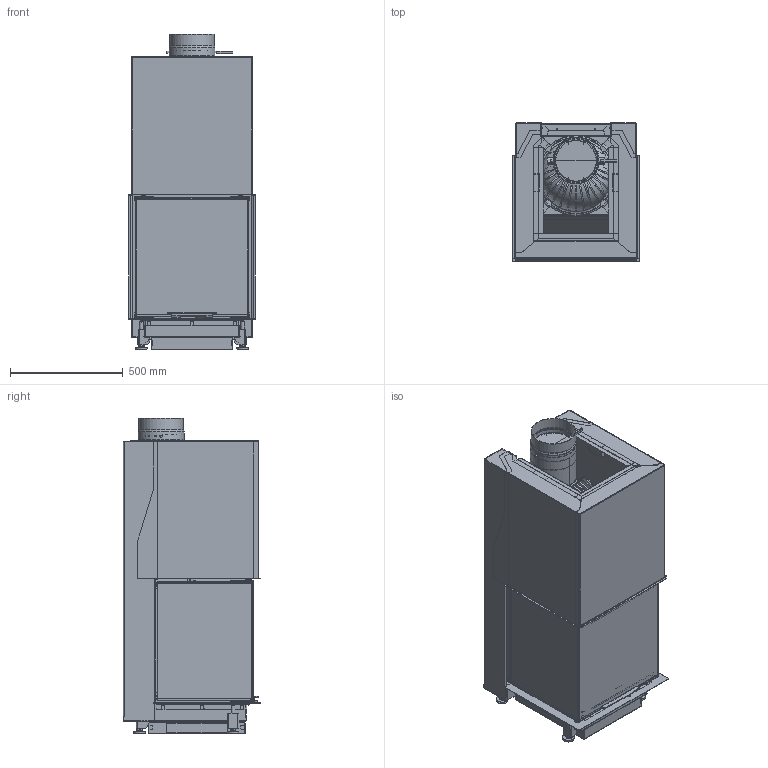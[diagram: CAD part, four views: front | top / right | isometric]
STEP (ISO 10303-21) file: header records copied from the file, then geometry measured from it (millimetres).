
FILE_DESCRIPTION(/* description */ (''),/* implementation_level */ '2;1');
FILE_NAME(/* name */ 'C:\ADSK_DM_WS\CAD_3D\03 Geraete\RIII 55x56x46\Zeichnungen\RIII 55x56x46 Gen.2 ohne Mantel Abgang oben CAD Planung defriten 2021-03257 211124.stp',/* time_stamp */ '2021-11-24T13:18:27+01:00',/* author */ ('CPI'),/* organization */ (''),/* preprocessor_version */ 'ST-DEVELOPER v18.1',/* originating_system */ 'Autodesk Inventor 2022',/* authorisation */ '');
FILE_SCHEMA (('AUTOMOTIVE_DESIGN { 1 0 10303 214 3 1 1 }'));
Products named in the file (8): 2021-03257; 2021-03247; 2021-03251; 2021-03253; 2021-03255; 2021-03151; 2021-03155; 2018-00985
Assembly tree (7 placements, depth 2):
  2021-03257
    2021-03247
    2021-03251
    2021-03253
    2021-03255
    2021-03151
    2021-03155
    2018-00985
Bounding box: 560 x 612 x 1399 mm (x, y, z)
Volume: 30825801.5 mm3; surface area: 14800517.6 mm2
Topology: 18 solids, 32 shells, 7812 faces, 21634 edges, 13652 vertices
Faces by surface type: plane 4660, cylinder 2656, bspline 221, cone 214, torus 60, sphere 1
Full cylindrical faces by diameter (mm): 3.242 x6, 4 x9, 4.8 x1, 6 x3, 7.5 x8, 7.9 x2, 10 x19, 10.21 x4, 12 x4, 16 x10, 20 x4, 30 x4, 163 x1, 194 x1, 198 x1, 200 x1, 204 x1, 333 x1, 339 x1
Entity records: 262062 total; most frequent: CARTESIAN_POINT 55820, ORIENTED_EDGE 43144, DIRECTION 41999, EDGE_CURVE 21629, LINE 14137, VECTOR 14137, AXIS2_PLACEMENT_3D 13931, VERTEX_POINT 13644
